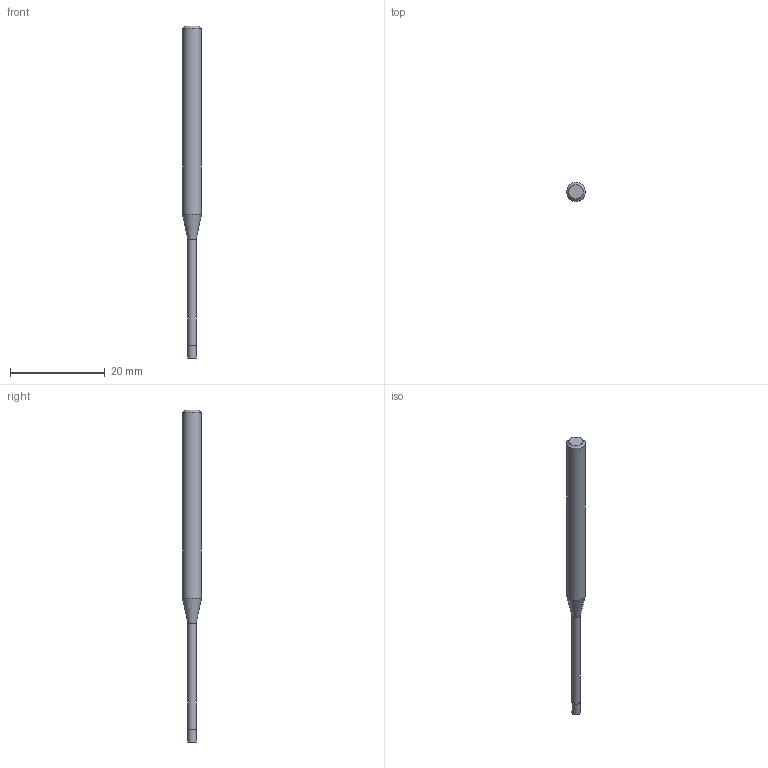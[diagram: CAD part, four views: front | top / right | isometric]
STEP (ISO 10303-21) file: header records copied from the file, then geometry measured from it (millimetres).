
FILE_DESCRIPTION((''),'2;1');
FILE_NAME('C:\Users\nsx150\AppData\Local\Temp\Mastercam 2021\17T8Q8S9EB\TEMP.step','2021-04-21T16:15:30',(''),(''),'STEP Write','Mastercam 2021 ... CNC Software, Inc.','');
FILE_SCHEMA(('AUTOMOTIVE_DESIGN'));
Length unit declared in the file: millimetre
Products named in the file (1): None
Bounding box: 4 x 4 x 70 mm (x, y, z)
Volume: 593.3 mm3; surface area: 700.9 mm2
Topology: 2 solids, 2 shells, 9 faces, 12 edges, 7 vertices
Faces by surface type: plane 4, cylinder 3, cone 2
Full cylindrical faces by diameter (mm): 1.74 x1, 1.8 x1, 4 x1
Entity records: 211 total; most frequent: DIRECTION 36, CARTESIAN_POINT 25, AXIS2_PLACEMENT_3D 18, ORIENTED_EDGE 14, EDGE_LOOP 14, STYLED_ITEM 12, ADVANCED_FACE 9, FACE_BOUND 8
